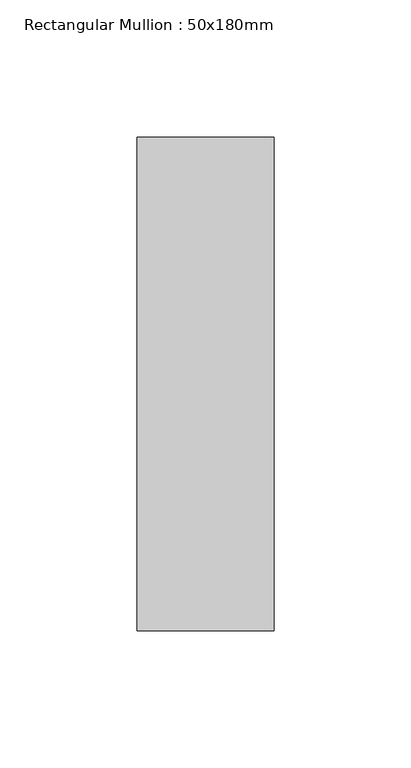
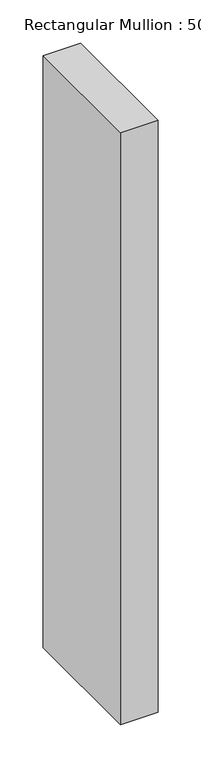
"""IFC4 building model written with IfcOpenShell, lengths in millimetres: member geometry, Rectangular Mullion : 50x180mm."""

from ifc_helpers import new_model, si_unit, frame, origin, place, context, project, spatial, polyline, outline, extrude, source, transform, mapped, element, save


def rectangular_mullion_50x180mm_44ee472d(model_context):
    return source(origin(), model_context, "Body", "SweptSolid", [
        extrude(outline(polyline([(0.0, 90.0), (0.0, -90.0), (-50.0, -90.0), (-50.0, 90.0), (0.0, 90.0)])), frame((0.0, 0.0, -837.5), z_axis=(0.0, 0.0, 1.0), x_axis=(1.0, 0.0, 0.0)), (0.0, 0.0, 1.0), 837.5),
    ])


if __name__ == "__main__":
    model = new_model("IFC4")
    model_context = context("Model", 3, world=origin())
    ifc_project = project(units=[si_unit("LENGTHUNIT", "METRE", prefix="MILLI")], contexts=[model_context])
    site = spatial("IfcSite", under=ifc_project)
    building = spatial("IfcBuilding", under=site)
    placement = place(None, origin())
    rectangular_mullion_50x180mm_shape = rectangular_mullion_50x180mm_44ee472d(model_context)
    element("IfcMember", 1, ObjectType="Rectangular Mullion : 50x180mm", at=placement, inside=building, context=model_context, shape_type="MappedRepresentation", body=[
        mapped(rectangular_mullion_50x180mm_shape, transform((0.0, 0.0, 0.0), x_axis=(1.0, 0.0, 0.0), y_axis=(0.0, 1.0, 0.0), z_axis=(0.0, 0.0, 1.0))),
    ])
    save(model, "model.ifc")
